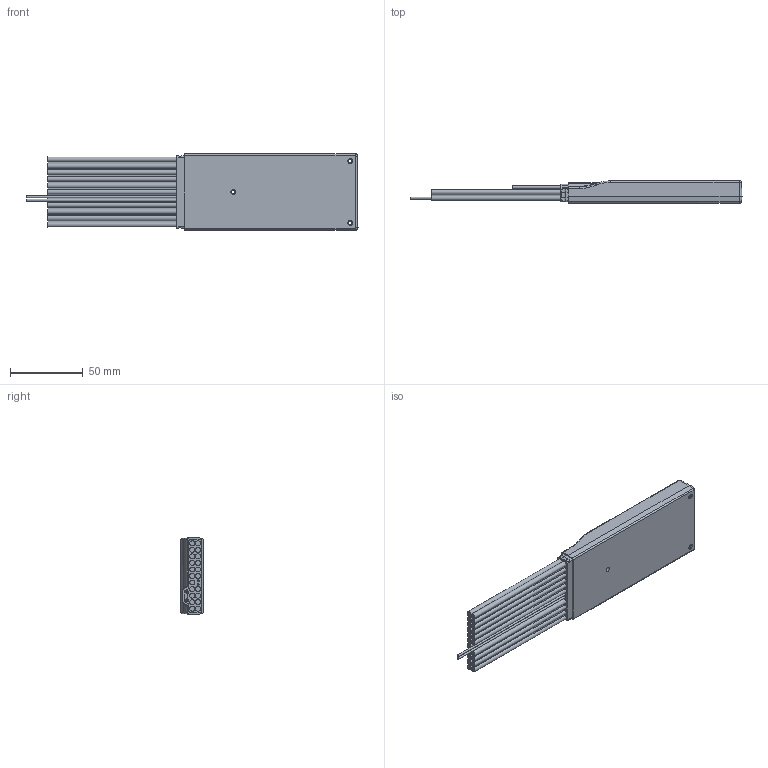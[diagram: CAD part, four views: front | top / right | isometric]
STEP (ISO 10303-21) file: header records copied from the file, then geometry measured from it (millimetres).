
FILE_DESCRIPTION(/* description */ (''),/* implementation_level */ '2;1');
FILE_NAME(/* name */ 'C:\Users\mbs18.Embention\Git\3d_LM - BASIC-101010.stp',/* time_stamp */ '2026-02-27T09:32:06+01:00',/* author */ ('mbs18'),/* organization */ (''),/* preprocessor_version */ 'ST-DEVELOPER v17',/* originating_system */ 'Autodesk Inventor 2018',/* authorisation */ '');
FILE_SCHEMA (('AUTOMOTIVE_DESIGN { 1 0 10303 214 3 1 1 }'));
Products named in the file (12): 2697001-25449-010-A00-DEF_CLIENT; 000 Ensamblaje hw_LM - BASIC_VACIADA; 2697001-25449-001-A01-NOU_3D_LM_DISSENY_CLIENT_20260129; 2697001-25449-020-A00-CJNT_FAJA_CABLES; 2697001-25449-021-A00-FAJA_CABLES_TOP; 2697001-25449-022-A00-FAJA_CABLES_BOTTOM; 2697001-25449-023-A00-TUBOS_PRESION; 2697001-25449-030-A00-CJNT_PEINE_FAJA_CABLES; 2697001-25449-031-A00-PEINE_SUPERIOR; 2697001-25449-033-A00-PEINE_INFERIOR; 2697001-25449-034-A00-PEINE_INFERIOR_TUBOS; 2697001-25449-032-A01-PEINE_INTERMEDIO_20260129
Assembly tree (11 placements, depth 3):
  2697001-25449-010-A00-DEF_CLIENT
    000 Ensamblaje hw_LM - BASIC_VACIADA
    2697001-25449-001-A01-NOU_3D_LM_DISSENY_CLIENT_20260129
    2697001-25449-020-A00-CJNT_FAJA_CABLES
      2697001-25449-021-A00-FAJA_CABLES_TOP
      2697001-25449-022-A00-FAJA_CABLES_BOTTOM
      2697001-25449-023-A00-TUBOS_PRESION
    2697001-25449-030-A00-CJNT_PEINE_FAJA_CABLES
      2697001-25449-031-A00-PEINE_SUPERIOR
      2697001-25449-033-A00-PEINE_INFERIOR
      2697001-25449-034-A00-PEINE_INFERIOR_TUBOS
      2697001-25449-032-A01-PEINE_INTERMEDIO_20260129
Bounding box: 228.68 x 15.3 x 53 mm (x, y, z)
Volume: 137200.7 mm3; surface area: 77473.1 mm2
Topology: 24 solids, 24 shells, 2904 faces, 8004 edges, 5320 vertices
Faces by surface type: plane 2048, cylinder 500, bspline 330, cone 18, torus 8
Full cylindrical faces by diameter (mm): 0.5 x10, 0.6 x2, 0.7 x1, 1 x2, 1.37 x2, 1.5 x6, 1.55 x2, 1.567 x4, 1.6 x4, 1.65 x2, 1.7 x2, 1.8 x2, 1.86 x2, 2 x10, 2.013 x2, 2.459 x5, 2.75 x2, 2.9 x4, 3 x5, 3.2 x7, 3.5 x2, 4.2 x3, 5.1 x2, 6 x6
Entity records: 95454 total; most frequent: CARTESIAN_POINT 21245, ORIENTED_EDGE 15996, DIRECTION 14066, EDGE_CURVE 7998, LINE 6130, VECTOR 6130, VERTEX_POINT 5320, AXIS2_PLACEMENT_3D 3968
